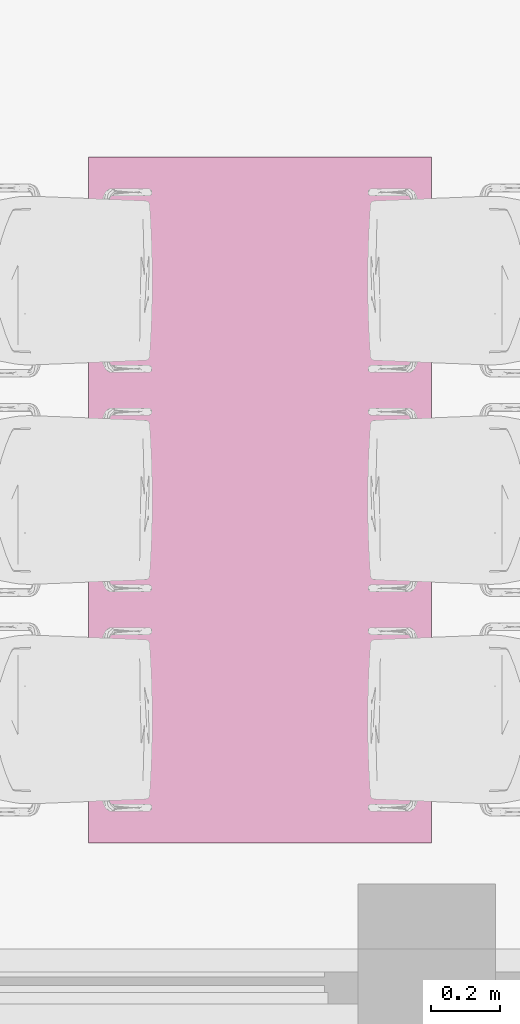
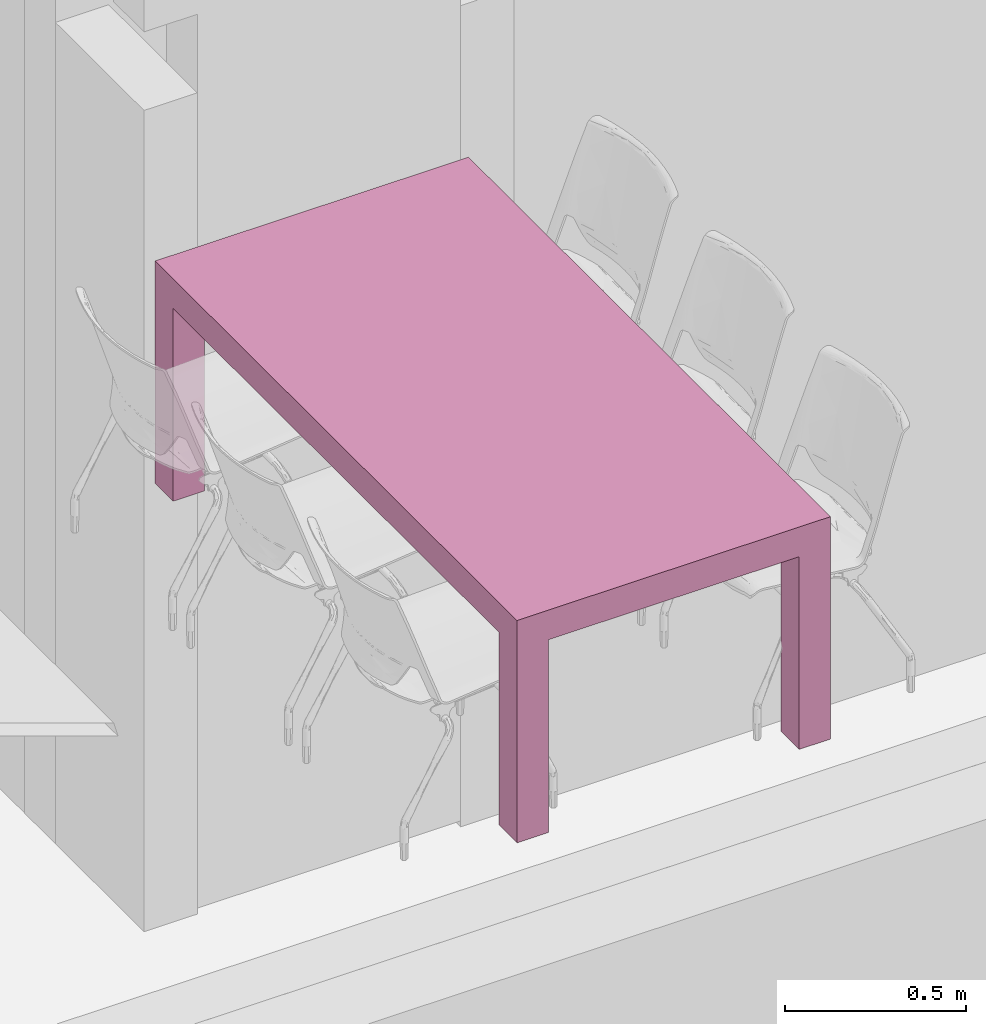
# One storey, part 59 of 125: 1 furnishing.
"""IFC2X3 building model written with IfcOpenShell, lengths in millimetres."""

from ifc_helpers import new_model, entity, si_unit, converted_unit, direction, frame, origin, place, context, subcontext, project, spatial, faceted_brep, source, transform, mapped, material, type_object, type_shapes, element, save


model = new_model("IFC2X3")

# Units and contexts
model_context = context("Model", 3, precision=0.01, world=origin(), true_north=direction((6.123233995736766e-17, 1.0)))
plan_context = context("Plan", 3, precision=0.01, world=origin(), true_north=direction((6.123233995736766e-17, 1.0)))
body_context = subcontext(model_context, "Body", "Model", "MODEL_VIEW")
ifc_project = project(units=[si_unit("LENGTHUNIT", "METRE", prefix="MILLI"), converted_unit("PLANEANGLEUNIT", "DEGREE", entity("IfcPlaneAngleMeasure", 0.017453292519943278), si_unit("PLANEANGLEUNIT", "RADIAN"), dimensions=[0, 0, 0, 0, 0, 0, 0]), si_unit("AREAUNIT", "SQUARE_METRE")], contexts=[model_context, plan_context])

# Site, building, storey, space
site_placement = place(None, origin())
site = spatial("IfcSite", under=ifc_project, at=site_placement, Name="Default", CompositionType="ELEMENT")
building_placement = place(site_placement, origin())
building = spatial("IfcBuilding", under=site, at=building_placement, CompositionType="ELEMENT")
storey_placement = place(building_placement, frame((0.0, 0.0, 3125.0)))
storey = spatial("IfcBuildingStorey", under=building, at=storey_placement, Name="2K", CompositionType="ELEMENT", Elevation=3125.0)
space_placement = place(storey_placement, origin())
space = spatial("IfcSpace", under=storey, at=space_placement, Name="2-4.2", CompositionType="ELEMENT", InteriorOrExteriorSpace="INTERNAL")

# Furnishing
ifc_material = material(Name="<Unnamed>")
furniture_type = type_object("IfcFurnitureType", Name="HR_Furniture_Table_Generic_v2016-02-11:2000x1000", AssemblyPlace="NOTDEFINED", material=ifc_material)
shared_shape = source(origin(), body_context, "Body", "Brep", [
    faceted_brep([(-500.0, -900.0, 0.0), (-400.0, -900.0, 0.0), (-400.0, -1000.0, 0.0), (-500.0, -1000.0, 0.0), (-400.0, 1000.0, 0.0), (-500.0, 1000.0, 0.0), (-500.0, 1000.0, 750.0), (500.0, 1000.0, 750.0), (500.0, 1000.0, 0.0), (400.0, 1000.0, 0.0), (400.0, 1000.0, 650.0), (-400.0, 1000.0, 650.0), (-500.0, 900.0, 0.0), (-500.0, 900.0, 650.0), (-500.0, -900.0, 650.0), (-500.0, -1000.0, 750.0), (-400.0, 900.0, 0.0), (-400.0, 900.0, 650.0), (400.0, 900.0, 0.0), (400.0, 900.0, 650.0), (500.0, 900.0, 0.0), (500.0, 900.0, 650.0), (500.0, -1000.0, 750.0), (500.0, -1000.0, 0.0), (500.0, -900.0, 0.0), (500.0, -900.0, 650.0), (400.0, -900.0, 0.0), (400.0, -900.0, 650.0), (400.0, -1000.0, 0.0), (400.0, -1000.0, 650.0), (-400.0, -1000.0, 650.0), (-400.0, -900.0, 650.0)], [[[0, 1, 2, 3]], [[4, 5, 6, 7, 8, 9, 10, 11]], [[6, 5, 12, 13, 14, 0, 3, 15]], [[12, 16, 17, 13]], [[16, 4, 11, 17]], [[9, 18, 19, 10]], [[18, 20, 21, 19]], [[20, 8, 7, 22, 23, 24, 25, 21]], [[24, 26, 27, 25]], [[26, 28, 29, 27]], [[28, 23, 22, 15, 3, 2, 30, 29]], [[2, 1, 31, 30]], [[1, 0, 14, 31]], [[7, 6, 15, 22]], [[11, 10, 19, 21, 25, 27, 29, 30, 31, 14, 13, 17]], [[4, 16, 12, 5]], [[8, 20, 18, 9]], [[24, 23, 28, 26]]]),
])
type_shapes(furniture_type, [shared_shape])
furnishing_placement = place(space_placement, frame((7718.545584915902, 1120.0, 3170.0)))
element("IfcFurnishingElement", 1, at=furnishing_placement, inside=space, type_object=furniture_type, material=ifc_material, Name="HR_Furniture_Table_Generic_v2016-02-11:2000x1000", ObjectType="HR_Furniture_Table_Generic_v2016-02-11:2000x1000", context=body_context, shape_type="MappedRepresentation", body=[
    mapped(shared_shape, transform((0.0, 0.0, 0.0), scale=1.0)),
])

save(model, "model.ifc")
